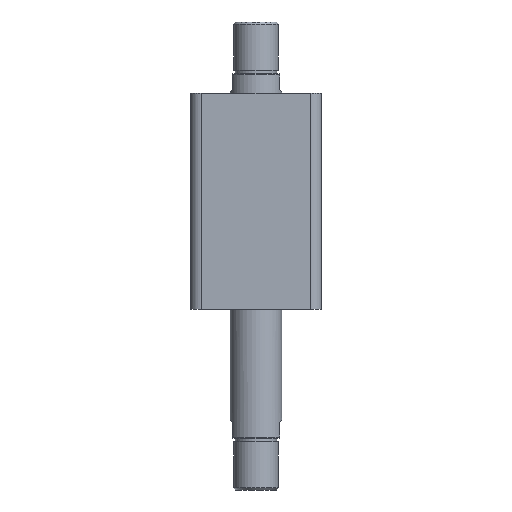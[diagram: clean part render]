
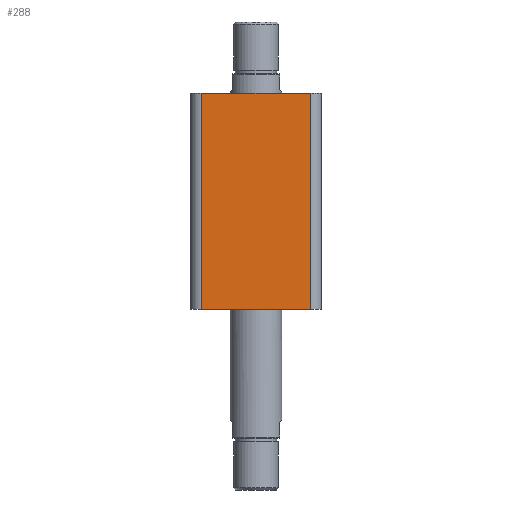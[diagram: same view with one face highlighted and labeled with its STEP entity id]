
A CAD part, front view. The second image highlights one B-rep face of the part: STEP entity #288.
In plain terms, the highlighted planar face has unit normal (0, -1, 0).
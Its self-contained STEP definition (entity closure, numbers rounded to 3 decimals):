
#117 = EDGE_LOOP ( 'NONE', ( #2704, #2705, #2706, #2707 ) ) ;
#202 = DIRECTION ( 'NONE',  ( 0., 1., 0. ) ) ;
#203 = DIRECTION ( 'NONE',  ( 0., 0., 1. ) ) ;
#225 = PLANE ( 'NONE',  #1837 ) ;
#229 = CARTESIAN_POINT ( 'NONE',  ( -57., -57., 188. ) ) ;
#288 = ADVANCED_FACE ( 'NONE', ( #498 ), #225, .F. ) ;
#498 = FACE_OUTER_BOUND ( 'NONE', #117, .T. ) ;
#781 = LINE ( 'NONE', #2190, #783 ) ;
#783 = VECTOR ( 'NONE', #2191, 1000. ) ;
#809 = LINE ( 'NONE', #2236, #818 ) ;
#813 = LINE ( 'NONE', #2244, #816 ) ;
#816 = VECTOR ( 'NONE', #2245, 1000. ) ;
#817 = LINE ( 'NONE', #2247, #820 ) ;
#818 = VECTOR ( 'NONE', #2246, 1000. ) ;
#820 = VECTOR ( 'NONE', #2248, 1000. ) ;
#1667 = EDGE_CURVE ( 'NONE', #2991, #2984, #781, .T. ) ;
#1687 = EDGE_CURVE ( 'NONE', #3003, #2988, #813, .T. ) ;
#1688 = EDGE_CURVE ( 'NONE', #2988, #2984, #809, .T. ) ;
#1689 = EDGE_CURVE ( 'NONE', #2991, #3003, #817, .T. ) ;
#1837 = AXIS2_PLACEMENT_3D ( 'NONE', #229, #202, #203 ) ;
#1979 = CARTESIAN_POINT ( 'NONE',  ( 47., -57., 188. ) ) ;
#1989 = CARTESIAN_POINT ( 'NONE',  ( 47., -57., 0. ) ) ;
#1992 = CARTESIAN_POINT ( 'NONE',  ( -47., -57., 188. ) ) ;
#2004 = CARTESIAN_POINT ( 'NONE',  ( -47., -57., 0. ) ) ;
#2190 = CARTESIAN_POINT ( 'NONE',  ( -57., -57., 188. ) ) ;
#2191 = DIRECTION ( 'NONE',  ( 1., 0., 0. ) ) ;
#2236 = CARTESIAN_POINT ( 'NONE',  ( 47., -57., 188. ) ) ;
#2244 = CARTESIAN_POINT ( 'NONE',  ( -57., -57., 0. ) ) ;
#2245 = DIRECTION ( 'NONE',  ( 1., 0., 0. ) ) ;
#2246 = DIRECTION ( 'NONE',  ( 0., 0., 1. ) ) ;
#2247 = CARTESIAN_POINT ( 'NONE',  ( -47., -57., 188. ) ) ;
#2248 = DIRECTION ( 'NONE',  ( 0., 0., -1. ) ) ;
#2704 = ORIENTED_EDGE ( 'NONE', *, *, #1687, .T. ) ;
#2705 = ORIENTED_EDGE ( 'NONE', *, *, #1688, .T. ) ;
#2706 = ORIENTED_EDGE ( 'NONE', *, *, #1667, .F. ) ;
#2707 = ORIENTED_EDGE ( 'NONE', *, *, #1689, .T. ) ;
#2984 = VERTEX_POINT ( 'NONE', #1979 ) ;
#2988 = VERTEX_POINT ( 'NONE', #1989 ) ;
#2991 = VERTEX_POINT ( 'NONE', #1992 ) ;
#3003 = VERTEX_POINT ( 'NONE', #2004 ) ;
